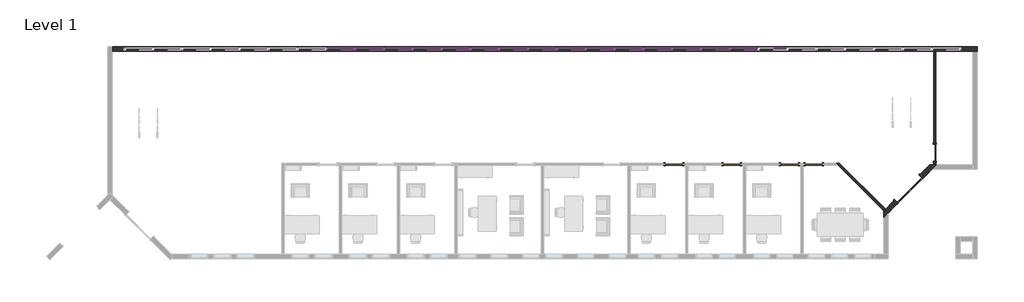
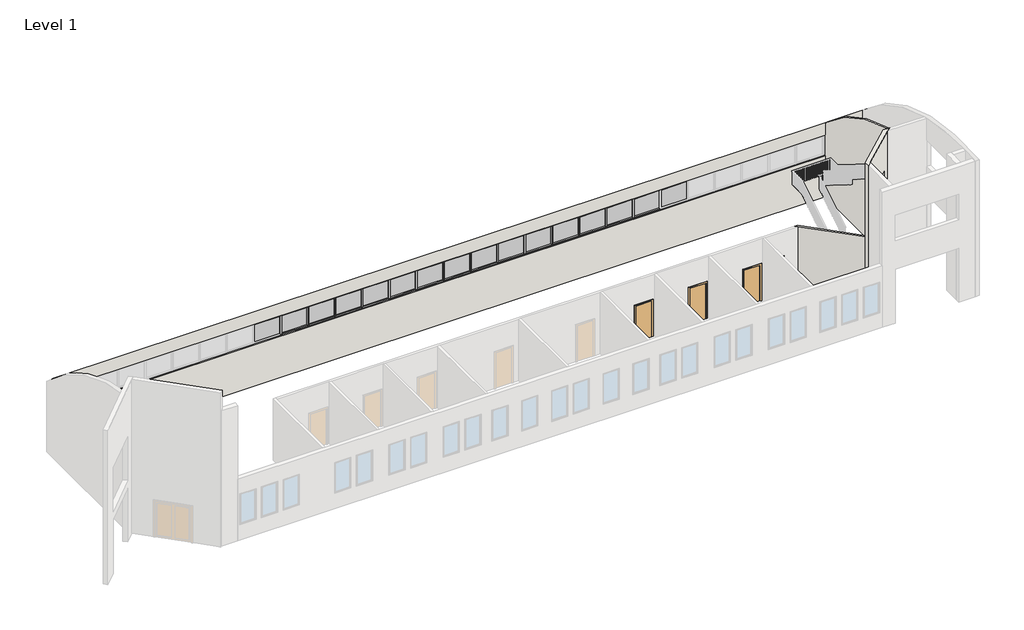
# One storey, part 3 of 4: 43 members, 16 plates, 6 doors, 4 walls.
"""IFC4 building model written with IfcOpenShell, lengths in millimetres."""

from ifc_helpers import new_model, si_unit, point, frame, frame_2d, origin, place, context, project, spatial, polyline, circle_curve, ellipse_curve, trimmed, segment, composite_curve, outline, extrude, faceted_brep, transform, mapped, element, save
from ifc_brep_helpers import plane_surface, cylinder_surface, advanced_brep
from components import door_a1a3006e, door_88503111, door_eb9f8b14, member_4a1dde21, member_ea26f28a, system_panel_glazed_38e8219a

model = new_model("IFC4")

# Units and contexts
model_context = context("Model", 3, world=origin())
ifc_project = project(units=[si_unit("LENGTHUNIT", "METRE", prefix="MILLI")], contexts=[model_context])

# Site, building, storey
site = spatial("IfcSite", under=ifc_project)
building = spatial("IfcBuilding", under=site)
storey = spatial("IfcBuildingStorey", under=building, Name="Level 1", Elevation=0.0)

# Doors
placement = place(None, origin())
door_shape = door_a1a3006e(model_context)
element("IfcDoor", 1, ObjectType="Double-Glass 1 : 72\" x 84\"", at=placement, inside=storey, context=model_context, shape_type="MappedRepresentation", body=[
    mapped(door_shape, transform((30087.7252597, 1108.4862934, 0.0), x_axis=(-0.707106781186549, -0.7071067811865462, 0.0), y_axis=(0.7071067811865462, -0.707106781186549, 0.0), z_axis=(0.0, 0.0, 1.0))),
])
door_2_shape = door_88503111(model_context)
element("IfcDoor", 2, ObjectType="Single-Flush : 36\" x 84\"", at=placement, inside=storey, context=model_context, shape_type="MappedRepresentation", body=[
    mapped(door_2_shape, transform((31469.1896094, 3031.7225872, 0.0), x_axis=(0.0, -1.0, 0.0), y_axis=(1.0, 0.0, 0.0), z_axis=(0.0, 0.0, 1.0))),
])
element("IfcDoor", 3, ObjectType="Single-Flush : 36\" x 84\"", at=placement, inside=storey, context=model_context, shape_type="MappedRepresentation", body=[
    mapped(door_2_shape, transform((25068.3896094, 2425.2975872, 0.0), x_axis=(-1.0, 0.0, 0.0), y_axis=(0.0, -1.0, 0.0), z_axis=(0.0, 0.0, 1.0))),
])
door_3_shape = door_eb9f8b14(model_context)
element("IfcDoor", 4, ObjectType="Single-Flush : 36\" x 84\"", at=placement, inside=storey, context=model_context, shape_type="MappedRepresentation", body=[
    mapped(door_3_shape, transform((17691.2771094, 2425.2975872, 0.0), x_axis=(1.0, 0.0, 0.0), y_axis=(0.0, 1.0, 0.0), z_axis=(0.0, 0.0, 1.0))),
])
element("IfcDoor", 5, ObjectType="Single-Flush : 36\" x 84\"", at=placement, inside=storey, context=model_context, shape_type="MappedRepresentation", body=[
    mapped(door_3_shape, transform((20739.2771094, 2425.2975872, 0.0), x_axis=(1.0, 0.0, 0.0), y_axis=(0.0, 1.0, 0.0), z_axis=(0.0, 0.0, 1.0))),
])
element("IfcDoor", 6, ObjectType="Single-Flush : 36\" x 84\"", at=placement, inside=storey, context=model_context, shape_type="MappedRepresentation", body=[
    mapped(door_3_shape, transform((23787.2771094, 2425.2975872, 0.0), x_axis=(1.0, 0.0, 0.0), y_axis=(0.0, 1.0, 0.0), z_axis=(0.0, 0.0, 1.0))),
])

# Members
member_shape = member_4a1dde21(model_context)
element("IfcMember", 7, ObjectType="Rectangular Mullion : 2.5\" x 5\" rectangular", at=placement, inside=storey, context=model_context, shape_type="MappedRepresentation", body=[
    mapped(member_shape, transform((805.0396094, 8521.2975872, 3657.6), x_axis=(0.0, 0.0, 1.0), y_axis=(0.0, -1.0, 0.0), z_axis=(1.0, 0.0, 0.0))),
])
element("IfcMember", 8, ObjectType="Rectangular Mullion : 2.5\" x 5\" rectangular", at=placement, inside=storey, context=model_context, shape_type="MappedRepresentation", body=[
    mapped(member_shape, transform((2329.0396094, 8521.2975872, 3657.6), x_axis=(0.0, 0.0, 1.0), y_axis=(0.0, -1.0, 0.0), z_axis=(1.0, 0.0, 0.0))),
])
element("IfcMember", 9, ObjectType="Rectangular Mullion : 2.5\" x 5\" rectangular", at=placement, inside=storey, context=model_context, shape_type="MappedRepresentation", body=[
    mapped(member_shape, transform((3853.0396094, 8521.2975872, 3657.6), x_axis=(0.0, 0.0, 1.0), y_axis=(0.0, -1.0, 0.0), z_axis=(1.0, 0.0, 0.0))),
])
element("IfcMember", 10, ObjectType="Rectangular Mullion : 2.5\" x 5\" rectangular", at=placement, inside=storey, context=model_context, shape_type="MappedRepresentation", body=[
    mapped(member_shape, transform((5377.0396094, 8521.2975872, 3657.6), x_axis=(0.0, 0.0, 1.0), y_axis=(0.0, -1.0, 0.0), z_axis=(1.0, 0.0, 0.0))),
])
element("IfcMember", 11, ObjectType="Rectangular Mullion : 2.5\" x 5\" rectangular", at=placement, inside=storey, context=model_context, shape_type="MappedRepresentation", body=[
    mapped(member_shape, transform((6901.0396094, 8521.2975872, 3657.6), x_axis=(0.0, 0.0, 1.0), y_axis=(0.0, -1.0, 0.0), z_axis=(1.0, 0.0, 0.0))),
])
element("IfcMember", 12, ObjectType="Rectangular Mullion : 2.5\" x 5\" rectangular", at=placement, inside=storey, context=model_context, shape_type="MappedRepresentation", body=[
    mapped(member_shape, transform((8425.0396094, 8521.2975872, 3657.6), x_axis=(0.0, 0.0, 1.0), y_axis=(0.0, -1.0, 0.0), z_axis=(1.0, 0.0, 0.0))),
])
element("IfcMember", 13, ObjectType="Rectangular Mullion : 2.5\" x 5\" rectangular", at=placement, inside=storey, context=model_context, shape_type="MappedRepresentation", body=[
    mapped(member_shape, transform((9949.0396094, 8521.2975872, 3657.6), x_axis=(0.0, 0.0, 1.0), y_axis=(0.0, -1.0, 0.0), z_axis=(1.0, 0.0, 0.0))),
])
element("IfcMember", 14, ObjectType="Rectangular Mullion : 2.5\" x 5\" rectangular", at=placement, inside=storey, context=model_context, shape_type="MappedRepresentation", body=[
    mapped(member_shape, transform((11473.0396094, 8521.2975872, 3657.6), x_axis=(0.0, 0.0, 1.0), y_axis=(0.0, -1.0, 0.0), z_axis=(1.0, 0.0, 0.0))),
])
element("IfcMember", 15, ObjectType="Rectangular Mullion : 2.5\" x 5\" rectangular", at=placement, inside=storey, context=model_context, shape_type="MappedRepresentation", body=[
    mapped(member_shape, transform((12997.0396094, 8521.2975872, 3657.6), x_axis=(0.0, 0.0, 1.0), y_axis=(0.0, -1.0, 0.0), z_axis=(1.0, 0.0, 0.0))),
])
element("IfcMember", 16, ObjectType="Rectangular Mullion : 2.5\" x 5\" rectangular", at=placement, inside=storey, context=model_context, shape_type="MappedRepresentation", body=[
    mapped(member_shape, transform((14521.0396094, 8521.2975872, 3657.6), x_axis=(0.0, 0.0, 1.0), y_axis=(0.0, -1.0, 0.0), z_axis=(1.0, 0.0, 0.0))),
])
element("IfcMember", 17, ObjectType="Rectangular Mullion : 2.5\" x 5\" rectangular", at=placement, inside=storey, context=model_context, shape_type="MappedRepresentation", body=[
    mapped(member_shape, transform((16045.0396094, 8521.2975872, 3657.6), x_axis=(0.0, 0.0, 1.0), y_axis=(0.0, -1.0, 0.0), z_axis=(1.0, 0.0, 0.0))),
])
element("IfcMember", 18, ObjectType="Rectangular Mullion : 2.5\" x 5\" rectangular", at=placement, inside=storey, context=model_context, shape_type="MappedRepresentation", body=[
    mapped(member_shape, transform((17569.0396094, 8521.2975872, 3657.6), x_axis=(0.0, 0.0, 1.0), y_axis=(0.0, -1.0, 0.0), z_axis=(1.0, 0.0, 0.0))),
])
element("IfcMember", 19, ObjectType="Rectangular Mullion : 2.5\" x 5\" rectangular", at=placement, inside=storey, context=model_context, shape_type="MappedRepresentation", body=[
    mapped(member_shape, transform((19093.0396094, 8521.2975872, 3657.6), x_axis=(0.0, 0.0, 1.0), y_axis=(0.0, -1.0, 0.0), z_axis=(1.0, 0.0, 0.0))),
])
element("IfcMember", 20, ObjectType="Rectangular Mullion : 2.5\" x 5\" rectangular", at=placement, inside=storey, context=model_context, shape_type="MappedRepresentation", body=[
    mapped(member_shape, transform((20617.0396094, 8521.2975872, 3657.6), x_axis=(0.0, 0.0, 1.0), y_axis=(0.0, -1.0, 0.0), z_axis=(1.0, 0.0, 0.0))),
])
element("IfcMember", 21, ObjectType="Rectangular Mullion : 2.5\" x 5\" rectangular", at=placement, inside=storey, context=model_context, shape_type="MappedRepresentation", body=[
    mapped(member_shape, transform((22141.0396094, 8521.2975872, 3657.6), x_axis=(0.0, 0.0, 1.0), y_axis=(0.0, -1.0, 0.0), z_axis=(1.0, 0.0, 0.0))),
])
element("IfcMember", 22, ObjectType="Rectangular Mullion : 2.5\" x 5\" rectangular", at=placement, inside=storey, context=model_context, shape_type="MappedRepresentation", body=[
    mapped(member_shape, transform((868.5396094, 8521.2975872, 2451.0234381), x_axis=(0.0, 0.0, -1.0), y_axis=(0.0, -1.0, 0.0), z_axis=(-1.0, 0.0, 0.0))),
])
element("IfcMember", 23, ObjectType="Rectangular Mullion : 2.5\" x 5\" rectangular", at=placement, inside=storey, context=model_context, shape_type="MappedRepresentation", body=[
    mapped(member_shape, transform((2392.5396094, 8521.2975872, 2451.0234381), x_axis=(0.0, 0.0, -1.0), y_axis=(0.0, -1.0, 0.0), z_axis=(-1.0, 0.0, 0.0))),
])
element("IfcMember", 24, ObjectType="Rectangular Mullion : 2.5\" x 5\" rectangular", at=placement, inside=storey, context=model_context, shape_type="MappedRepresentation", body=[
    mapped(member_shape, transform((3916.5396094, 8521.2975872, 2451.0234381), x_axis=(0.0, 0.0, -1.0), y_axis=(0.0, -1.0, 0.0), z_axis=(-1.0, 0.0, 0.0))),
])
element("IfcMember", 25, ObjectType="Rectangular Mullion : 2.5\" x 5\" rectangular", at=placement, inside=storey, context=model_context, shape_type="MappedRepresentation", body=[
    mapped(member_shape, transform((5440.5396094, 8521.2975872, 2451.0234381), x_axis=(0.0, 0.0, -1.0), y_axis=(0.0, -1.0, 0.0), z_axis=(-1.0, 0.0, 0.0))),
])
element("IfcMember", 26, ObjectType="Rectangular Mullion : 2.5\" x 5\" rectangular", at=placement, inside=storey, context=model_context, shape_type="MappedRepresentation", body=[
    mapped(member_shape, transform((6964.5396094, 8521.2975872, 2451.0234381), x_axis=(0.0, 0.0, -1.0), y_axis=(0.0, -1.0, 0.0), z_axis=(-1.0, 0.0, 0.0))),
])
element("IfcMember", 27, ObjectType="Rectangular Mullion : 2.5\" x 5\" rectangular", at=placement, inside=storey, context=model_context, shape_type="MappedRepresentation", body=[
    mapped(member_shape, transform((8488.5396094, 8521.2975872, 2451.0234381), x_axis=(0.0, 0.0, -1.0), y_axis=(0.0, -1.0, 0.0), z_axis=(-1.0, 0.0, 0.0))),
])
element("IfcMember", 28, ObjectType="Rectangular Mullion : 2.5\" x 5\" rectangular", at=placement, inside=storey, context=model_context, shape_type="MappedRepresentation", body=[
    mapped(member_shape, transform((10012.5396094, 8521.2975872, 2451.0234381), x_axis=(0.0, 0.0, -1.0), y_axis=(0.0, -1.0, 0.0), z_axis=(-1.0, 0.0, 0.0))),
])
element("IfcMember", 29, ObjectType="Rectangular Mullion : 2.5\" x 5\" rectangular", at=placement, inside=storey, context=model_context, shape_type="MappedRepresentation", body=[
    mapped(member_shape, transform((11536.5396094, 8521.2975872, 2451.0234381), x_axis=(0.0, 0.0, -1.0), y_axis=(0.0, -1.0, 0.0), z_axis=(-1.0, 0.0, 0.0))),
])
element("IfcMember", 30, ObjectType="Rectangular Mullion : 2.5\" x 5\" rectangular", at=placement, inside=storey, context=model_context, shape_type="MappedRepresentation", body=[
    mapped(member_shape, transform((13060.5396094, 8521.2975872, 2451.0234381), x_axis=(0.0, 0.0, -1.0), y_axis=(0.0, -1.0, 0.0), z_axis=(-1.0, 0.0, 0.0))),
])
element("IfcMember", 31, ObjectType="Rectangular Mullion : 2.5\" x 5\" rectangular", at=placement, inside=storey, context=model_context, shape_type="MappedRepresentation", body=[
    mapped(member_shape, transform((14584.5396094, 8521.2975872, 2451.0234381), x_axis=(0.0, 0.0, -1.0), y_axis=(0.0, -1.0, 0.0), z_axis=(-1.0, 0.0, 0.0))),
])
element("IfcMember", 32, ObjectType="Rectangular Mullion : 2.5\" x 5\" rectangular", at=placement, inside=storey, context=model_context, shape_type="MappedRepresentation", body=[
    mapped(member_shape, transform((16108.5396094, 8521.2975872, 2451.0234381), x_axis=(0.0, 0.0, -1.0), y_axis=(0.0, -1.0, 0.0), z_axis=(-1.0, 0.0, 0.0))),
])
element("IfcMember", 33, ObjectType="Rectangular Mullion : 2.5\" x 5\" rectangular", at=placement, inside=storey, context=model_context, shape_type="MappedRepresentation", body=[
    mapped(member_shape, transform((17632.5396094, 8521.2975872, 2451.0234381), x_axis=(0.0, 0.0, -1.0), y_axis=(0.0, -1.0, 0.0), z_axis=(-1.0, 0.0, 0.0))),
])
element("IfcMember", 34, ObjectType="Rectangular Mullion : 2.5\" x 5\" rectangular", at=placement, inside=storey, context=model_context, shape_type="MappedRepresentation", body=[
    mapped(member_shape, transform((19156.5396094, 8521.2975872, 2451.0234381), x_axis=(0.0, 0.0, -1.0), y_axis=(0.0, -1.0, 0.0), z_axis=(-1.0, 0.0, 0.0))),
])
element("IfcMember", 35, ObjectType="Rectangular Mullion : 2.5\" x 5\" rectangular", at=placement, inside=storey, context=model_context, shape_type="MappedRepresentation", body=[
    mapped(member_shape, transform((20680.5396094, 8521.2975872, 2451.0234381), x_axis=(0.0, 0.0, -1.0), y_axis=(0.0, -1.0, 0.0), z_axis=(-1.0, 0.0, 0.0))),
])
member_2_shape = member_ea26f28a(model_context)
element("IfcMember", 36, ObjectType="Rectangular Mullion : 2.5\" x 5\" rectangular", at=placement, inside=storey, context=model_context, shape_type="MappedRepresentation", body=[
    mapped(member_2_shape, transform((836.7896094, 8521.2975872, 2451.0234381), x_axis=(1.0, 0.0, 0.0), y_axis=(0.0, -1.0, 0.0), z_axis=(0.0, 0.0, -1.0))),
])
element("IfcMember", 37, ObjectType="Rectangular Mullion : 2.5\" x 5\" rectangular", at=placement, inside=storey, context=model_context, shape_type="MappedRepresentation", body=[
    mapped(member_2_shape, transform((2360.7896094, 8521.2975872, 2451.0234381), x_axis=(1.0, 0.0, 0.0), y_axis=(0.0, -1.0, 0.0), z_axis=(0.0, 0.0, -1.0))),
])
element("IfcMember", 38, ObjectType="Rectangular Mullion : 2.5\" x 5\" rectangular", at=placement, inside=storey, context=model_context, shape_type="MappedRepresentation", body=[
    mapped(member_2_shape, transform((3884.7896094, 8521.2975872, 2451.0234381), x_axis=(1.0, 0.0, 0.0), y_axis=(0.0, -1.0, 0.0), z_axis=(0.0, 0.0, -1.0))),
])
element("IfcMember", 39, ObjectType="Rectangular Mullion : 2.5\" x 5\" rectangular", at=placement, inside=storey, context=model_context, shape_type="MappedRepresentation", body=[
    mapped(member_2_shape, transform((5408.7896094, 8521.2975872, 2451.0234381), x_axis=(1.0, 0.0, 0.0), y_axis=(0.0, -1.0, 0.0), z_axis=(0.0, 0.0, -1.0))),
])
element("IfcMember", 40, ObjectType="Rectangular Mullion : 2.5\" x 5\" rectangular", at=placement, inside=storey, context=model_context, shape_type="MappedRepresentation", body=[
    mapped(member_2_shape, transform((6932.7896094, 8521.2975872, 2451.0234381), x_axis=(1.0, 0.0, 0.0), y_axis=(0.0, -1.0, 0.0), z_axis=(0.0, 0.0, -1.0))),
])
element("IfcMember", 41, ObjectType="Rectangular Mullion : 2.5\" x 5\" rectangular", at=placement, inside=storey, context=model_context, shape_type="MappedRepresentation", body=[
    mapped(member_2_shape, transform((8456.7896094, 8521.2975872, 2451.0234381), x_axis=(1.0, 0.0, 0.0), y_axis=(0.0, -1.0, 0.0), z_axis=(0.0, 0.0, -1.0))),
])
element("IfcMember", 42, ObjectType="Rectangular Mullion : 2.5\" x 5\" rectangular", at=placement, inside=storey, context=model_context, shape_type="MappedRepresentation", body=[
    mapped(member_2_shape, transform((9980.7896094, 8521.2975872, 2451.0234381), x_axis=(1.0, 0.0, 0.0), y_axis=(0.0, -1.0, 0.0), z_axis=(0.0, 0.0, -1.0))),
])
element("IfcMember", 43, ObjectType="Rectangular Mullion : 2.5\" x 5\" rectangular", at=placement, inside=storey, context=model_context, shape_type="MappedRepresentation", body=[
    mapped(member_2_shape, transform((11504.7896094, 8521.2975872, 2451.0234381), x_axis=(1.0, 0.0, 0.0), y_axis=(0.0, -1.0, 0.0), z_axis=(0.0, 0.0, -1.0))),
])
element("IfcMember", 44, ObjectType="Rectangular Mullion : 2.5\" x 5\" rectangular", at=placement, inside=storey, context=model_context, shape_type="MappedRepresentation", body=[
    mapped(member_2_shape, transform((13028.7896094, 8521.2975872, 2451.0234381), x_axis=(1.0, 0.0, 0.0), y_axis=(0.0, -1.0, 0.0), z_axis=(0.0, 0.0, -1.0))),
])
element("IfcMember", 45, ObjectType="Rectangular Mullion : 2.5\" x 5\" rectangular", at=placement, inside=storey, context=model_context, shape_type="MappedRepresentation", body=[
    mapped(member_2_shape, transform((14552.7896094, 8521.2975872, 2451.0234381), x_axis=(1.0, 0.0, 0.0), y_axis=(0.0, -1.0, 0.0), z_axis=(0.0, 0.0, -1.0))),
])
element("IfcMember", 46, ObjectType="Rectangular Mullion : 2.5\" x 5\" rectangular", at=placement, inside=storey, context=model_context, shape_type="MappedRepresentation", body=[
    mapped(member_2_shape, transform((16076.7896094, 8521.2975872, 2451.0234381), x_axis=(1.0, 0.0, 0.0), y_axis=(0.0, -1.0, 0.0), z_axis=(0.0, 0.0, -1.0))),
])
element("IfcMember", 47, ObjectType="Rectangular Mullion : 2.5\" x 5\" rectangular", at=placement, inside=storey, context=model_context, shape_type="MappedRepresentation", body=[
    mapped(member_2_shape, transform((17600.7896094, 8521.2975872, 2451.0234381), x_axis=(1.0, 0.0, 0.0), y_axis=(0.0, -1.0, 0.0), z_axis=(0.0, 0.0, -1.0))),
])
element("IfcMember", 48, ObjectType="Rectangular Mullion : 2.5\" x 5\" rectangular", at=placement, inside=storey, context=model_context, shape_type="MappedRepresentation", body=[
    mapped(member_2_shape, transform((19124.7896094, 8521.2975872, 2451.0234381), x_axis=(1.0, 0.0, 0.0), y_axis=(0.0, -1.0, 0.0), z_axis=(0.0, 0.0, -1.0))),
])
element("IfcMember", 49, ObjectType="Rectangular Mullion : 2.5\" x 5\" rectangular", at=placement, inside=storey, context=model_context, shape_type="MappedRepresentation", body=[
    mapped(member_2_shape, transform((20648.7896094, 8521.2975872, 2451.0234381), x_axis=(1.0, 0.0, 0.0), y_axis=(0.0, -1.0, 0.0), z_axis=(0.0, 0.0, -1.0))),
])

# Plates
system_panel_glazed_shape = system_panel_glazed_38e8219a(model_context)
element("IfcPlate", 50, ObjectType="System Panel : Glazed", at=placement, inside=storey, context=model_context, shape_type="MappedRepresentation", body=[
    mapped(system_panel_glazed_shape, transform((74.7896094, 8521.2975872, 2514.5234381), x_axis=(1.0, 0.0, 0.0), y_axis=(0.0, 1.0, 0.0), z_axis=(0.0, 0.0, 1.0))),
])
element("IfcPlate", 51, ObjectType="System Panel : Glazed", at=placement, inside=storey, context=model_context, shape_type="MappedRepresentation", body=[
    mapped(system_panel_glazed_shape, transform((1598.7896094, 8521.2975872, 2514.5234381), x_axis=(1.0, 0.0, 0.0), y_axis=(0.0, 1.0, 0.0), z_axis=(0.0, 0.0, 1.0))),
])
element("IfcPlate", 52, ObjectType="System Panel : Glazed", at=placement, inside=storey, context=model_context, shape_type="MappedRepresentation", body=[
    mapped(system_panel_glazed_shape, transform((3122.7896094, 8521.2975872, 2514.5234381), x_axis=(1.0, 0.0, 0.0), y_axis=(0.0, 1.0, 0.0), z_axis=(0.0, 0.0, 1.0))),
])
element("IfcPlate", 53, ObjectType="System Panel : Glazed", at=placement, inside=storey, context=model_context, shape_type="MappedRepresentation", body=[
    mapped(system_panel_glazed_shape, transform((4646.7896094, 8521.2975872, 2514.5234381), x_axis=(1.0, 0.0, 0.0), y_axis=(0.0, 1.0, 0.0), z_axis=(0.0, 0.0, 1.0))),
])
element("IfcPlate", 54, ObjectType="System Panel : Glazed", at=placement, inside=storey, context=model_context, shape_type="MappedRepresentation", body=[
    mapped(system_panel_glazed_shape, transform((6170.7896094, 8521.2975872, 2514.5234381), x_axis=(1.0, 0.0, 0.0), y_axis=(0.0, 1.0, 0.0), z_axis=(0.0, 0.0, 1.0))),
])
element("IfcPlate", 55, ObjectType="System Panel : Glazed", at=placement, inside=storey, context=model_context, shape_type="MappedRepresentation", body=[
    mapped(system_panel_glazed_shape, transform((7694.7896094, 8521.2975872, 2514.5234381), x_axis=(1.0, 0.0, 0.0), y_axis=(0.0, 1.0, 0.0), z_axis=(0.0, 0.0, 1.0))),
])
element("IfcPlate", 56, ObjectType="System Panel : Glazed", at=placement, inside=storey, context=model_context, shape_type="MappedRepresentation", body=[
    mapped(system_panel_glazed_shape, transform((9218.7896094, 8521.2975872, 2514.5234381), x_axis=(1.0, 0.0, 0.0), y_axis=(0.0, 1.0, 0.0), z_axis=(0.0, 0.0, 1.0))),
])
element("IfcPlate", 57, ObjectType="System Panel : Glazed", at=placement, inside=storey, context=model_context, shape_type="MappedRepresentation", body=[
    mapped(system_panel_glazed_shape, transform((10742.7896094, 8521.2975872, 2514.5234381), x_axis=(1.0, 0.0, 0.0), y_axis=(0.0, 1.0, 0.0), z_axis=(0.0, 0.0, 1.0))),
])
element("IfcPlate", 58, ObjectType="System Panel : Glazed", at=placement, inside=storey, context=model_context, shape_type="MappedRepresentation", body=[
    mapped(system_panel_glazed_shape, transform((12266.7896094, 8521.2975872, 2514.5234381), x_axis=(1.0, 0.0, 0.0), y_axis=(0.0, 1.0, 0.0), z_axis=(0.0, 0.0, 1.0))),
])
element("IfcPlate", 59, ObjectType="System Panel : Glazed", at=placement, inside=storey, context=model_context, shape_type="MappedRepresentation", body=[
    mapped(system_panel_glazed_shape, transform((13790.7896094, 8521.2975872, 2514.5234381), x_axis=(1.0, 0.0, 0.0), y_axis=(0.0, 1.0, 0.0), z_axis=(0.0, 0.0, 1.0))),
])
element("IfcPlate", 60, ObjectType="System Panel : Glazed", at=placement, inside=storey, context=model_context, shape_type="MappedRepresentation", body=[
    mapped(system_panel_glazed_shape, transform((15314.7896094, 8521.2975872, 2514.5234381), x_axis=(1.0, 0.0, 0.0), y_axis=(0.0, 1.0, 0.0), z_axis=(0.0, 0.0, 1.0))),
])
element("IfcPlate", 61, ObjectType="System Panel : Glazed", at=placement, inside=storey, context=model_context, shape_type="MappedRepresentation", body=[
    mapped(system_panel_glazed_shape, transform((16838.7896094, 8521.2975872, 2514.5234381), x_axis=(1.0, 0.0, 0.0), y_axis=(0.0, 1.0, 0.0), z_axis=(0.0, 0.0, 1.0))),
])
element("IfcPlate", 62, ObjectType="System Panel : Glazed", at=placement, inside=storey, context=model_context, shape_type="MappedRepresentation", body=[
    mapped(system_panel_glazed_shape, transform((18362.7896094, 8521.2975872, 2514.5234381), x_axis=(1.0, 0.0, 0.0), y_axis=(0.0, 1.0, 0.0), z_axis=(0.0, 0.0, 1.0))),
])
element("IfcPlate", 63, ObjectType="System Panel : Glazed", at=placement, inside=storey, context=model_context, shape_type="MappedRepresentation", body=[
    mapped(system_panel_glazed_shape, transform((19886.7896094, 8521.2975872, 2514.5234381), x_axis=(1.0, 0.0, 0.0), y_axis=(0.0, 1.0, 0.0), z_axis=(0.0, 0.0, 1.0))),
])
element("IfcPlate", 64, ObjectType="System Panel : Glazed", at=placement, inside=storey, context=model_context, shape_type="MappedRepresentation", body=[
    mapped(system_panel_glazed_shape, transform((21410.7896094, 8521.2975872, 2514.5234381), x_axis=(1.0, 0.0, 0.0), y_axis=(0.0, 1.0, 0.0), z_axis=(0.0, 0.0, 1.0))),
])
element("IfcPlate", 65, ObjectType="System Panel : Glazed", at=placement, inside=storey, context=model_context, shape_type="MappedRepresentation", body=[
    mapped(system_panel_glazed_shape, transform((22934.7896094, 8521.2975872, 2514.5234381), x_axis=(1.0, 0.0, 0.0), y_axis=(0.0, 1.0, 0.0), z_axis=(0.0, 0.0, 1.0))),
])

# Walls
element("IfcWall", 66, ObjectType="Exterior - EIFS on Mtl. Stud", at=placement, inside=storey, context=model_context, shape_type="AdvancedBrep", body=[
    advanced_brep(
    [(-11996.5603906, 8400.6475872, 0.0), (31407.2771094, 8400.6475872, 0.0), (31531.1021094, 8400.6475872, 0.0), (33482.1396094, 8400.6475872, 0.0), (33723.4396094, 8400.6475872, 0.0), (33723.4396094, 8400.6475872, 4416.6203861), (33482.1396094, 8400.6475872, 4416.6203861), (31531.1021094, 8400.6475872, 4416.6203861), (31407.2771094, 8400.6475872, 4416.6203861), (-11996.5603906, 8400.6475872, 4416.6203861), (-11355.2103906, 8400.6475872, 2451.0234381), (-11355.2103906, 8400.6475872, 3657.6), (32840.7896094, 8400.6475872, 3657.6), (32840.7896094, 8400.6475872, 2451.0234381), (33723.4396094, 8641.9475872, 0.0), (-11996.5603906, 8641.9475872, 0.0), (-11996.5603906, 8641.9475872, 4186.9126463), (33723.4396094, 8641.9475872, 4186.9126463), (-11355.2103906, 8641.9475872, 3657.6), (-11355.2103906, 8641.9475872, 2451.0234381), (32840.7896094, 8641.9475872, 2451.0234381), (32840.7896094, 8641.9475872, 3657.6)],
    [
        (0, 1),
        (1, 2),
        (2, 3),
        (3, 4),
        (4, 5),
        (5, 6),
        (6, 7),
        (7, 8),
        (8, 9),
        (9, 0),
        (10, 11),
        (11, 12),
        (12, 13),
        (13, 10),
        (14, 15),
        (15, 16),
        (16, 17),
        (17, 14),
        (18, 19),
        (19, 20),
        (20, 21),
        (21, 18),
        (0, 15),
        (14, 4),
        (17, 5, circle_curve(frame((33723.4396094, -1041.3166946, -5743.4275557), z_axis=(1.0, 0.0, 0.0), x_axis=(0.0, -1.0, 0.0)), 13870.0131102)),
        (9, 16, circle_curve(frame((-11996.5603906, -1041.3166946, -5743.4275557), z_axis=(-1.0, 0.0, 0.0), x_axis=(0.0, -1.0, 0.0)), 13870.0131102)),
        (10, 19),
        (18, 11),
        (21, 12),
        (20, 13),
    ],
    [
        plane_surface(frame((-6021.2103906, 8400.6475872, 0.0), z_axis=(0.0, -1.0, 0.0), x_axis=(1.0, 0.0, 0.0))),
        plane_surface(frame((-6021.2103906, 8641.9475872, 0.0), z_axis=(0.0, 1.0, 0.0), x_axis=(-1.0, 0.0, 0.0))),
        plane_surface(frame((-12117.2103906, 8400.6475872, 0.0), z_axis=(0.0, 0.0, -1.0), x_axis=(0.0, 1.0, 0.0))),
        plane_surface(frame((33723.4396094, 6692.4975872, 0.0), z_axis=(1.0, 0.0, 0.0), x_axis=(0.0, 1.0, 0.0))),
        plane_surface(frame((-11996.5603906, -2451.5024128, 0.0), z_axis=(-1.0, 0.0, 0.0), x_axis=(0.0, 1.0, 0.0))),
        cylinder_surface(frame((34821.9896094, -1041.3166946, -5743.4275557), z_axis=(1.0, 0.0, 0.0), x_axis=(0.0, -1.0, 0.0)), 13870.0131102),
        plane_surface(frame((-11355.2103906, 8794.3475872, 2451.0234381), z_axis=(1.0, 0.0, 0.0), x_axis=(0.0, -1.0, 0.0))),
        plane_surface(frame((-11355.2103906, 8794.3475872, 3657.6), z_axis=(0.0, 0.0, -1.0), x_axis=(0.0, -1.0, 0.0))),
        plane_surface(frame((32840.7896094, 8794.3475872, 3657.6), z_axis=(-1.0, 0.0, 0.0), x_axis=(0.0, -1.0, 0.0))),
        plane_surface(frame((32840.7896094, 8794.3475872, 2451.0234381), z_axis=(0.0, 0.0, 1.0), x_axis=(0.0, -1.0, 0.0))),
    ],
    [
        (0, [[1, 2, 3, 4, 5, 6, 7, 8, 9, 10], [11, 12, 13, 14]]),
        (1, [[15, 16, 17, 18], [19, 20, 21, 22]]),
        (2, [[-4, -3, -2, -1, 23, -15, 24]]),
        (3, [[-5, -24, -18, 25]]),
        (4, [[-10, 26, -16, -23]]),
        (5, [[-9, -8, -7, -6, -25, -17, -26]]),
        (6, [[27, -19, 28, -11]]),
        (7, [[-28, -22, 29, -12]]),
        (8, [[-29, -21, 30, -13]]),
        (9, [[-27, -14, -30, -20]]),
    ],
),
])
element("IfcWall", 67, ObjectType="Exterior - EIFS on Mtl. Stud", at=placement, inside=storey, context=model_context, shape_type="AdvancedBrep", body=[
    advanced_brep(
    [(28760.9146094, -392.3168192, 0.0), (29002.2146094, -151.0168192, 0.0), (29528.1430501, 374.9116215, 0.0), (29528.1430501, 374.9116215, 2133.6), (30821.2999316, 1668.0685029, 2133.6), (30821.2999316, 1668.0685029, 0.0), (31302.3040158, 2149.0725872, 0.0), (31543.6040158, 2390.3725872, 0.0), (31543.6040158, 2390.3725872, 7695.3511221), (31302.3040158, 2149.0725872, 7754.6715663), (29002.2146094, -151.0168192, 8097.9824089), (28760.9146094, -392.3168192, 8111.3933684), (30847.3750925, 1694.1436638, 3657.6), (29554.218211, 400.9867824, 3657.6), (29554.218211, 400.9867824, 5791.2), (30847.3750925, 1694.1436638, 5791.2), (29357.5181838, 545.5364878, 2133.6), (29357.5181838, 545.5364878, 0.0), (28864.7266292, 52.7449332, 0.0), (28777.169132, -34.812564, 0.0), (28760.9146094, -51.0670866, 0.0), (28760.9146094, -51.0670866, 8091.1909569), (31202.3542832, 2390.3725872, 7695.3511221), (31202.3542832, 2390.3725872, 0.0), (30650.6750653, 1838.6933692, 0.0), (30650.6750653, 1838.6933692, 2133.6), (30676.7502262, 1864.7685301, 3657.6), (30676.7502262, 1864.7685301, 5791.2), (29383.5933447, 571.6116487, 5791.2), (29383.5933447, 571.6116487, 3657.6), (31407.2771094, 2390.3725872, 0.0), (31531.1021094, 2390.3725872, 0.0), (31407.2771094, 2390.3725872, 7695.3511221), (31531.1021094, 2390.3725872, 7695.3511221)],
    [
        (0, 1),
        (1, 2),
        (2, 3),
        (3, 4),
        (4, 5),
        (5, 6),
        (6, 7),
        (7, 8),
        (8, 9, ellipse_curve(frame((28111.9147341, -1041.3166946, -5743.4275557), z_axis=(0.7071067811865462, -0.707106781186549, 0.0), x_axis=(0.7071067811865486, 0.7071067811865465, 0.0)), 19615.1606508, 13870.0131102)),
        (9, 10, ellipse_curve(frame((28111.9147341, -1041.3166946, -5743.4275557), z_axis=(0.7071067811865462, -0.707106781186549, 0.0), x_axis=(0.7071067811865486, 0.7071067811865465, 0.0)), 19615.1606508, 13870.0131102)),
        (10, 11, ellipse_curve(frame((28111.9147341, -1041.3166946, -5743.4275557), z_axis=(0.7071067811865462, -0.707106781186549, 0.0), x_axis=(0.7071067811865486, 0.7071067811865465, 0.0)), 19615.1606508, 13870.0131102)),
        (11, 0),
        (12, 13),
        (13, 14),
        (14, 15),
        (15, 12),
        (16, 17),
        (17, 18),
        (18, 19),
        (19, 20),
        (20, 21),
        (21, 22, ellipse_curve(frame((27770.6650015, -1041.3166946, -5743.4275557), z_axis=(-0.7071067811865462, 0.707106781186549, 0.0), x_axis=(0.7071067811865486, 0.7071067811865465, 0.0)), 19615.1606508, 13870.0131102)),
        (22, 23),
        (23, 24),
        (24, 25),
        (25, 16),
        (26, 27),
        (27, 28),
        (28, 29),
        (29, 26),
        (17, 2),
        (0, 20),
        (23, 30),
        (30, 31),
        (31, 7),
        (5, 24),
        (22, 32),
        (32, 33),
        (33, 8),
        (11, 21, circle_curve(frame((28760.9146094, -1041.3166946, -5743.4275557), z_axis=(-1.0, 0.0, 0.0), x_axis=(0.0, -1.0, 0.0)), 13870.0131102)),
        (16, 3),
        (25, 4),
        (12, 26),
        (29, 13),
        (28, 14),
        (27, 15),
    ],
    [
        plane_surface(frame((29049.7306208, -103.5008079, 0.0), z_axis=(0.7071067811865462, -0.707106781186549, 0.0), x_axis=(0.707106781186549, 0.7071067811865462, 0.0))),
        plane_surface(frame((28879.1057545, 67.1240584, 0.0), z_axis=(-0.7071067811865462, 0.707106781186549, 0.0), x_axis=(-0.707106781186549, -0.7071067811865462, 0.0))),
        plane_surface(frame((28966.8770426, -186.3543861, 0.0), z_axis=(0.0, 0.0, -1.0000000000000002), x_axis=(-0.7071067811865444, 0.7071067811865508, 0.0))),
        plane_surface(frame((33602.7896094, 2390.3725872, 0.0), z_axis=(0.0, 1.0, 0.0), x_axis=(-1.0, 0.0, 0.0))),
        plane_surface(frame((28760.9146094, -1062.9801319, 0.0), z_axis=(-1.0, 0.0, 0.0), x_axis=(0.0, -1.0, 0.0))),
        cylinder_surface(frame((34821.9896094, -1041.3166946, -5743.4275557), z_axis=(1.0, 0.0, 0.0), x_axis=(0.0, -1.0, 0.0)), 13870.0131102),
        plane_surface(frame((29528.1430501, 374.9116215, 0.0), z_axis=(0.7071067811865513, 0.7071067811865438, 0.0), x_axis=(-0.7071067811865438, 0.7071067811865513, 0.0))),
        plane_surface(frame((29528.1430501, 374.9116215, 2133.6), z_axis=(0.0, 0.0, -1.0000000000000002), x_axis=(-0.7071067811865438, 0.7071067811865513, 0.0))),
        plane_surface(frame((30821.2999316, 1668.0685029, 2133.6), z_axis=(-0.7071067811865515, -0.7071067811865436, 0.0), x_axis=(-0.7071067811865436, 0.7071067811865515, 0.0))),
        plane_surface(frame((30847.3750925, 1694.1436638, 3657.6), z_axis=(0.0, 0.0, 1.0), x_axis=(-0.7071067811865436, 0.7071067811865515, 0.0))),
        plane_surface(frame((29554.218211, 400.9867824, 3657.6), z_axis=(0.7071067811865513, 0.7071067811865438, 0.0), x_axis=(-0.7071067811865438, 0.7071067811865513, 0.0))),
        plane_surface(frame((29554.218211, 400.9867824, 5791.2), z_axis=(0.0, 0.0, -1.0), x_axis=(-0.7071067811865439, 0.7071067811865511, 0.0))),
        plane_surface(frame((30847.3750925, 1694.1436638, 5791.2), z_axis=(-0.7071067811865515, -0.7071067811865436, 0.0), x_axis=(-0.7071067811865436, 0.7071067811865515, 0.0))),
    ],
    [
        (0, [[1, 2, 3, 4, 5, 6, 7, 8, 9, 10, 11, 12], [13, 14, 15, 16]]),
        (1, [[17, 18, 19, 20, 21, 22, 23, 24, 25, 26], [27, 28, 29, 30]]),
        (2, [[-20, -19, -18, 31, -2, -1, 32]]),
        (2, [[-24, 33, 34, 35, -7, -6, 36]]),
        (3, [[-8, -35, -34, -33, -23, 37, 38, 39]]),
        (4, [[-12, 40, -21, -32]]),
        (5, [[-11, -10, -9, -39, -38, -37, -22, -40]]),
        (6, [[-3, -31, -17, 41]]),
        (7, [[-4, -41, -26, 42]]),
        (8, [[-5, -42, -25, -36]]),
        (9, [[-13, 43, -30, 44]]),
        (10, [[-14, -44, -29, 45]]),
        (11, [[-15, -45, -28, 46]]),
        (12, [[-16, -46, -27, -43]]),
    ],
),
])
element("IfcWall", 68, ObjectType="Interior - 4 7/8\" Partition (1-hr)", at=placement, inside=storey, context=model_context, shape_type="SweptSolid", body=[
    extrude(outline(composite_curve([segment(polyline([(2574.5225872, 2133.6), (2574.5225872, 0.0), (2390.3725872, 0.0), (2390.3725872, 7695.3511221)]), True, "CONTINUOUS"), segment(trimmed(circle_curve(frame_2d((-1041.3166946, -5743.4275557)), 13870.0131102), [point((2390.3725872, 7695.3511221))], [point((8400.6475872, 4416.6203861))], False, "CARTESIAN"), True, "CONTINUOUS"), segment(polyline([(8400.6475872, 4416.6203861), (8400.6475872, 0.0), (3488.9225872, 0.0), (3488.9225872, 2133.6), (2574.5225872, 2133.6)]), True, "CONTINUOUS")], self_intersect=False)), frame((31407.2771094, 0.0, 0.0), z_axis=(1.0, 0.0, 0.0), x_axis=(0.0, 1.0, 0.0)), (0.0, 0.0, 1.0), 123.825),
])
element("IfcWall", 69, ObjectType="Interior - 4 7/8\" Partition (1-hr)", at=placement, inside=storey, context=model_context, shape_type="Brep", body=[
    faceted_brep([(28864.7266292, 52.7449332, 0.0), (26430.2614752, 2487.2100872, 0.0), (26430.2614752, 2487.2100872, 3657.6), (28864.7266292, 52.7449332, 3657.6), (28777.169132, -34.812564, 0.0), (28777.169132, -34.812564, 3657.6), (26378.9714808, 2363.3850872, 3657.6), (26255.1464808, 2487.2100872, 3657.6), (26255.1464808, 2487.2100872, 0.0), (26378.9714808, 2363.3850872, 0.0)], [[[0, 1, 2, 3]], [[4, 5, 6, 7, 8, 9]], [[1, 0, 4, 9, 8]], [[3, 2, 7, 6, 5]], [[2, 1, 8, 7]], [[0, 3, 5, 4]]]),
])

save(model, "model.ifc")
